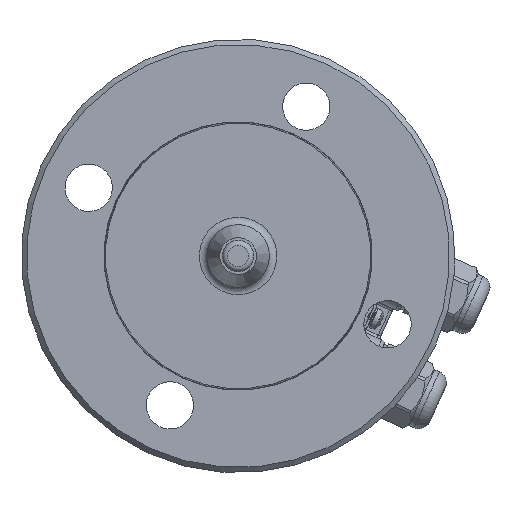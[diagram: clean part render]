
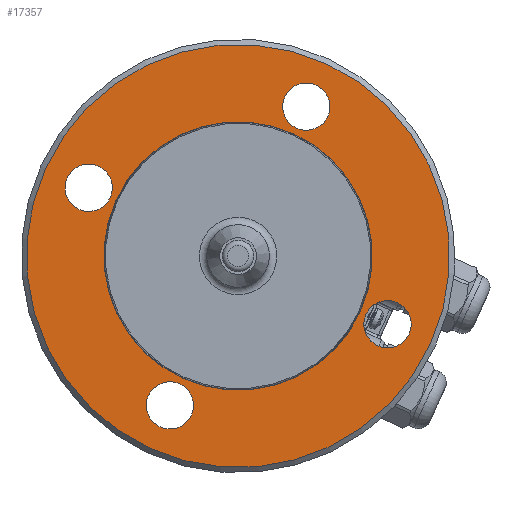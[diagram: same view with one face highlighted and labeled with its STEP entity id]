
A CAD part, front view. The second image highlights one B-rep face of the part: STEP entity #17357.
In plain terms, the highlighted planar face has unit normal (0, -1, 0).
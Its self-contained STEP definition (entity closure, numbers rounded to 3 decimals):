
#1279=FACE_BOUND('',#4668,.T.);
#1280=FACE_BOUND('',#4669,.T.);
#1281=FACE_BOUND('',#4670,.T.);
#1282=FACE_BOUND('',#4671,.T.);
#1283=FACE_BOUND('',#4672,.T.);
#2386=PLANE('',#19085);
#3429=FACE_OUTER_BOUND('',#4667,.T.);
#4667=EDGE_LOOP('',(#15794));
#4668=EDGE_LOOP('',(#15795));
#4669=EDGE_LOOP('',(#15796));
#4670=EDGE_LOOP('',(#15797));
#4671=EDGE_LOOP('',(#15798));
#4672=EDGE_LOOP('',(#15799));
#7050=CIRCLE('',#19069,9.);
#7052=CIRCLE('',#19072,9.);
#7054=CIRCLE('',#19075,9.);
#7056=CIRCLE('',#19078,9.);
#7060=CIRCLE('',#19084,51.1);
#7061=CIRCLE('',#19086,80.5);
#8594=VERTEX_POINT('',#46718);
#8596=VERTEX_POINT('',#46723);
#8598=VERTEX_POINT('',#46728);
#8600=VERTEX_POINT('',#46733);
#8604=VERTEX_POINT('',#46743);
#8605=VERTEX_POINT('',#46746);
#11023=EDGE_CURVE('',#8594,#8594,#7050,.T.);
#11025=EDGE_CURVE('',#8596,#8596,#7052,.T.);
#11027=EDGE_CURVE('',#8598,#8598,#7054,.T.);
#11029=EDGE_CURVE('',#8600,#8600,#7056,.T.);
#11033=EDGE_CURVE('',#8604,#8604,#7060,.T.);
#11034=EDGE_CURVE('',#8605,#8605,#7061,.T.);
#15794=ORIENTED_EDGE('',*,*,#11034,.F.);
#15795=ORIENTED_EDGE('',*,*,#11023,.T.);
#15796=ORIENTED_EDGE('',*,*,#11025,.T.);
#15797=ORIENTED_EDGE('',*,*,#11027,.T.);
#15798=ORIENTED_EDGE('',*,*,#11029,.T.);
#15799=ORIENTED_EDGE('',*,*,#11033,.T.);
#17357=ADVANCED_FACE('',(#3429,#1279,#1280,#1281,#1282,#1283),#2386,.T.);
#19069=AXIS2_PLACEMENT_3D('',#46719,#23121,#23122);
#19072=AXIS2_PLACEMENT_3D('',#46724,#23127,#23128);
#19075=AXIS2_PLACEMENT_3D('',#46729,#23133,#23134);
#19078=AXIS2_PLACEMENT_3D('',#46734,#23139,#23140);
#19084=AXIS2_PLACEMENT_3D('',#46744,#23151,#23152);
#19085=AXIS2_PLACEMENT_3D('',#46745,#23153,#23154);
#19086=AXIS2_PLACEMENT_3D('',#46747,#23155,#23156);
#23121=DIRECTION('center_axis',(0.,1.,0.));
#23122=DIRECTION('ref_axis',(-1.,0.,0.));
#23127=DIRECTION('center_axis',(0.,1.,0.));
#23128=DIRECTION('ref_axis',(-1.,0.,0.));
#23133=DIRECTION('center_axis',(0.,1.,0.));
#23134=DIRECTION('ref_axis',(-1.,0.,0.));
#23139=DIRECTION('center_axis',(0.,1.,0.));
#23140=DIRECTION('ref_axis',(-1.,0.,0.));
#23151=DIRECTION('center_axis',(0.,1.,0.));
#23152=DIRECTION('ref_axis',(1.,0.,0.));
#23153=DIRECTION('center_axis',(0.,-1.,0.));
#23154=DIRECTION('ref_axis',(0.,0.,-1.));
#23155=DIRECTION('center_axis',(0.,1.,0.));
#23156=DIRECTION('ref_axis',(1.,0.,0.));
#46718=CARTESIAN_POINT('',(9.,0.,-62.5));
#46719=CARTESIAN_POINT('Origin',(0.,0.,
-62.5));
#46723=CARTESIAN_POINT('',(9.,0.,62.5));
#46724=CARTESIAN_POINT('Origin',(0.,0.,62.5));
#46728=CARTESIAN_POINT('',(71.5,0.,0.));
#46729=CARTESIAN_POINT('Origin',(62.5,0.,0.));
#46733=CARTESIAN_POINT('',(-53.5,0.,0.));
#46734=CARTESIAN_POINT('Origin',(-62.5,0.,0.));
#46743=CARTESIAN_POINT('',(-51.1,0.,0.));
#46744=CARTESIAN_POINT('Origin',(0.,0.,0.));
#46745=CARTESIAN_POINT('Origin',(-80.5,0.,0.));
#46746=CARTESIAN_POINT('',(-80.5,0.,0.));
#46747=CARTESIAN_POINT('Origin',(0.,0.,0.));
